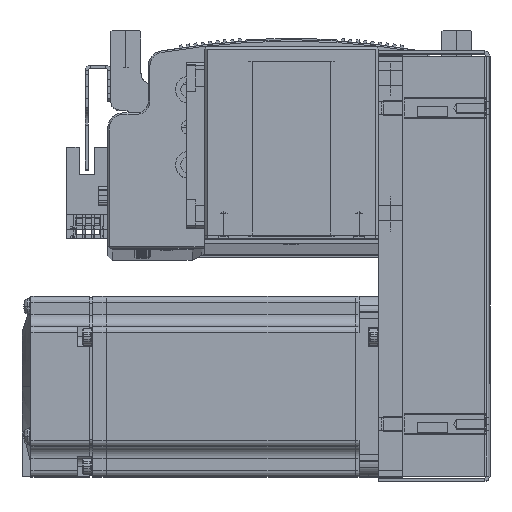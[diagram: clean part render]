
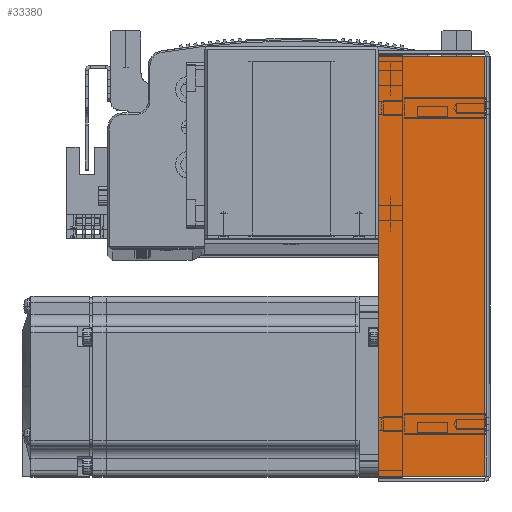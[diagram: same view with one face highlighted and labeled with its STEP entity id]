
A CAD part, top view. The second image highlights one B-rep face of the part: STEP entity #33380.
In plain terms, the highlighted planar face has unit normal (0, 0, 1).
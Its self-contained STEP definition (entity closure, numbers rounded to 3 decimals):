
#2450 = LINE ( 'NONE', #96097, #2476 ) ;
#2466 = LINE ( 'NONE', #96090, #2506 ) ;
#2476 = VECTOR ( 'NONE', #96076, 1000. ) ;
#2506 = VECTOR ( 'NONE', #96109, 1000. ) ;
#2532 = LINE ( 'NONE', #96217, #2541 ) ;
#2541 = VECTOR ( 'NONE', #96218, 1000. ) ;
#2545 = VECTOR ( 'NONE', #96132, 1000. ) ;
#2549 = LINE ( 'NONE', #96131, #2545 ) ;
#11498 = CARTESIAN_POINT ( 'NONE',  ( -69.793, 0.737, 33.5 ) ) ;
#11523 = CARTESIAN_POINT ( 'NONE',  ( -69.793, 36., 33.5 ) ) ;
#11527 = CARTESIAN_POINT ( 'NONE',  ( 69.793, 36., 33.5 ) ) ;
#11538 = CARTESIAN_POINT ( 'NONE',  ( 69.793, 0.737, 33.5 ) ) ;
#25242 = DIRECTION ( 'NONE',  ( 0., 0., -1. ) ) ;
#25266 = PLANE ( 'NONE',  #38268 ) ;
#25267 = DIRECTION ( 'NONE',  ( -1., 0., 0. ) ) ;
#25286 = CARTESIAN_POINT ( 'NONE',  ( 0., 0., 33.5 ) ) ;
#33380 = ADVANCED_FACE ( 'NONE', ( #56604 ), #25266, .F. ) ;
#38268 = AXIS2_PLACEMENT_3D ( 'NONE', #25286, #25242, #25267 ) ;
#42590 = ORIENTED_EDGE ( 'NONE', *, *, #55461, .T. ) ;
#42616 = ORIENTED_EDGE ( 'NONE', *, *, #55510, .F. ) ;
#42644 = ORIENTED_EDGE ( 'NONE', *, *, #55422, .T. ) ;
#43751 = EDGE_LOOP ( 'NONE', ( #44847, #42590, #42644, #42616 ) ) ;
#44847 = ORIENTED_EDGE ( 'NONE', *, *, #55411, .F. ) ;
#55411 = EDGE_CURVE ( 'NONE', #89801, #89798, #2466, .T. ) ;
#55422 = EDGE_CURVE ( 'NONE', #89826, #89880, #2450, .T. ) ;
#55461 = EDGE_CURVE ( 'NONE', #89801, #89826, #2549, .T. ) ;
#55510 = EDGE_CURVE ( 'NONE', #89798, #89880, #2532, .T. ) ;
#56604 = FACE_OUTER_BOUND ( 'NONE', #43751, .T. ) ;
#89798 = VERTEX_POINT ( 'NONE', #11498 ) ;
#89801 = VERTEX_POINT ( 'NONE', #11538 ) ;
#89826 = VERTEX_POINT ( 'NONE', #11527 ) ;
#89880 = VERTEX_POINT ( 'NONE', #11523 ) ;
#96076 = DIRECTION ( 'NONE',  ( -1., 0., 0. ) ) ;
#96090 = CARTESIAN_POINT ( 'NONE',  ( -71.5, 0.737, 33.5 ) ) ;
#96097 = CARTESIAN_POINT ( 'NONE',  ( 0., 36., 33.5 ) ) ;
#96109 = DIRECTION ( 'NONE',  ( -1., 0., 0. ) ) ;
#96131 = CARTESIAN_POINT ( 'NONE',  ( 69.793, 0., 33.5 ) ) ;
#96132 = DIRECTION ( 'NONE',  ( 0., 1., 0. ) ) ;
#96217 = CARTESIAN_POINT ( 'NONE',  ( -69.793, 0., 33.5 ) ) ;
#96218 = DIRECTION ( 'NONE',  ( 0., 1., 0. ) ) ;
